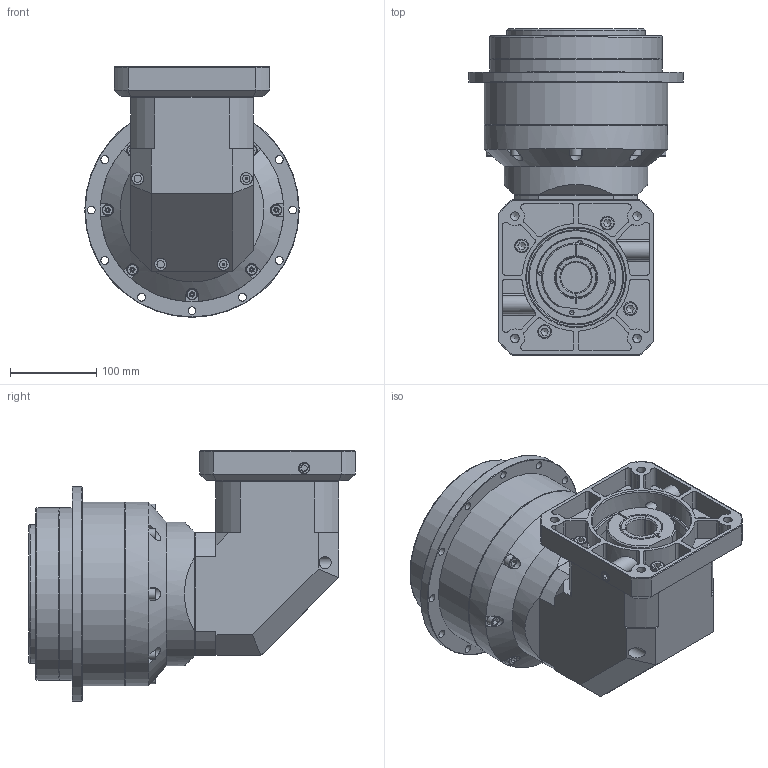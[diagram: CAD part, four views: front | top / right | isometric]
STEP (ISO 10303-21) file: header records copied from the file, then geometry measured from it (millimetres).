
FILE_DESCRIPTION((''),'2;1');
FILE_NAME('D:\WORK\감속기 카다로그 도면\ATG Reducer(홈페이지)\KSDL\KSDL-200-2.stp','2015-04-27T14:42:19',('young'),(''),'Autodesk Inventor 2012','Autodesk Inventor 2012','');
FILE_SCHEMA(('CONFIG_CONTROL_DESIGN'));
Length unit declared in the file: millimetre
Products named in the file (4): KSDL-200-2; 142-BK(SP352); BS 4168 : 부품 1 6각 소켓 머리 캡 나사 - 미터 M10 x 30
Assembly tree (6 placements, depth 2):
  KSDL-200-2
    KSDL-200-2
    142-BK(SP352)
    BS 4168 : 부품 1 6각 소켓 머리 캡 나사 - 미터 M10 x 30  x4
Bounding box: 248 x 377.5 x 289.7 mm (x, y, z)
Volume: 6482887.8 mm3; surface area: 953890.2 mm2
Topology: 25 solids, 25 shells, 952 faces, 2425 edges, 1597 vertices
Faces by surface type: plane 449, cylinder 307, cone 157, torus 23, bspline 16
Full cylindrical faces by diameter (mm): 2.5 x4, 4 x1, 4.5 x8, 5 x4, 6.75 x11, 6.8 x8, 7 x1, 8 x8, 8.5 x9, 9 x12, 10 x10, 10.2 x4, 10.5 x4, 11 x1, 11.125 x2, 11.45 x3, 13 x8, 14 x4, 16 x5, 18 x1, 34 x1, 35 x1, 40 x1, 42 x1, 42.5 x1, 45 x2, 48.2 x1, 49.8 x1, 50 x1, 58 x1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
Entity records: 36518 total; most frequent: CARTESIAN_POINT 16294, DIRECTION 4133, ORIENTED_EDGE 3868, EDGE_CURVE 1934, AXIS2_PLACEMENT_3D 1691, VERTEX_POINT 1450, EDGE_LOOP 1342, FACE_OUTER_BOUND 890
